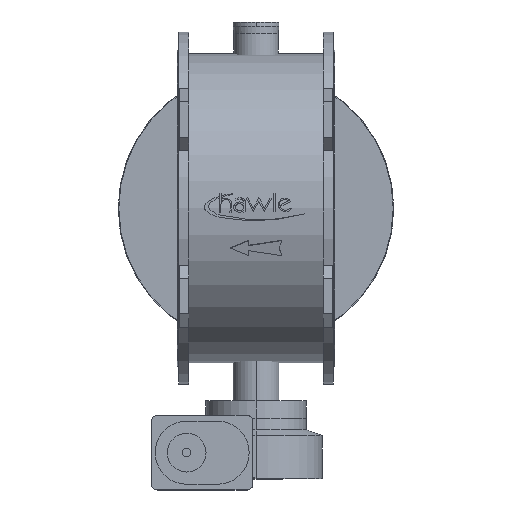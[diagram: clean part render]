
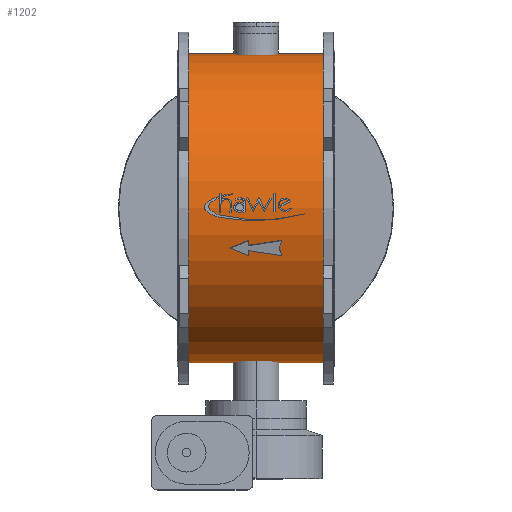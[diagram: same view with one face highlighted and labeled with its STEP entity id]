
A CAD part, top view. The second image highlights one B-rep face of the part: STEP entity #1202.
In plain terms, the highlighted cylindrical face has radius 540 mm (diameter 1080 mm), a partial arc.
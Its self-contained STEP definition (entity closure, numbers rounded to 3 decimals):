
#1202=ADVANCED_FACE('',(#2561),#2562,.T.);
#2561=FACE_OUTER_BOUND('',#4456,.T.);
#2562=CYLINDRICAL_SURFACE('',#4457,540.0);
#4456=EDGE_LOOP('',(#6571,#6572,#6573,#6574));
#4457=AXIS2_PLACEMENT_3D('',#6575,#6576,#6577);
#6571=ORIENTED_EDGE('',*,*,#10287,.T.);
#6572=ORIENTED_EDGE('',*,*,#10288,.T.);
#6573=ORIENTED_EDGE('',*,*,#10289,.T.);
#6574=ORIENTED_EDGE('',*,*,#10290,.T.);
#6575=CARTESIAN_POINT('',(-510.0,0.,0.0));
#6576=DIRECTION('',(1.0,0.,0.0));
#6577=DIRECTION('',(0.,-1.0,0.0));
#10287=EDGE_CURVE('',#12258,#12259,#12260,.T.);
#10288=EDGE_CURVE('',#12259,#12261,#12262,.T.);
#10289=EDGE_CURVE('',#12261,#12263,#12264,.T.);
#10290=EDGE_CURVE('',#12263,#12258,#12265,.T.);
#12258=VERTEX_POINT('',#14776);
#12259=VERTEX_POINT('',#14777);
#12260=LINE('',#14778,#14779);
#12261=VERTEX_POINT('',#14780);
#12262=CIRCLE('',#14781,540.0);
#12263=VERTEX_POINT('',#14782);
#12264=LINE('',#14783,#14784);
#12265=CIRCLE('',#14785,540.0);
#14776=CARTESIAN_POINT('',(-510.0,-540.0,0.0));
#14777=CARTESIAN_POINT('',(-40.,-540.0,0.0));
#14778=CARTESIAN_POINT('',(-510.0,-540.0,0.));
#14779=VECTOR('',#17398,1.0);
#14780=CARTESIAN_POINT('',(-40.0,540.0,0.));
#14781=AXIS2_PLACEMENT_3D('',#17399,#17400,#17401);
#14782=CARTESIAN_POINT('',(-510.0,540.0,0.));
#14783=CARTESIAN_POINT('',(-510.0,540.0,0.));
#14784=VECTOR('',#17402,1.0);
#14785=AXIS2_PLACEMENT_3D('',#17403,#17404,#17405);
#17398=DIRECTION('',(1.0,0.,0.0));
#17399=CARTESIAN_POINT('',(-40.0,0.,0.0));
#17400=DIRECTION('',(-1.0,0.,0.0));
#17401=DIRECTION('',(0.,-1.0,0.0));
#17402=DIRECTION('',(-1.0,0.,-0.0));
#17403=CARTESIAN_POINT('',(-510.0,0.,0.0));
#17404=DIRECTION('',(1.0,0.,0.0));
#17405=DIRECTION('',(0.,-1.0,0.0));
